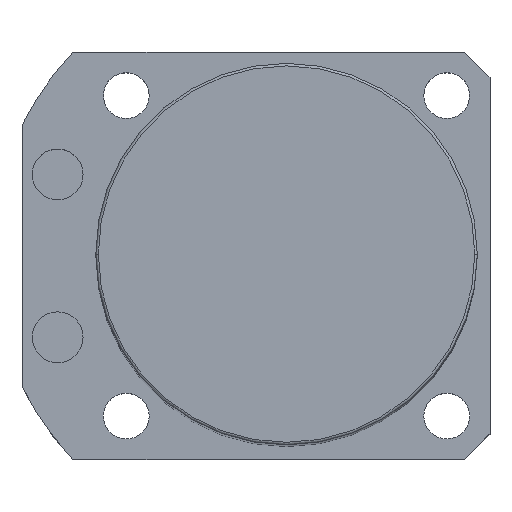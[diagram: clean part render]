
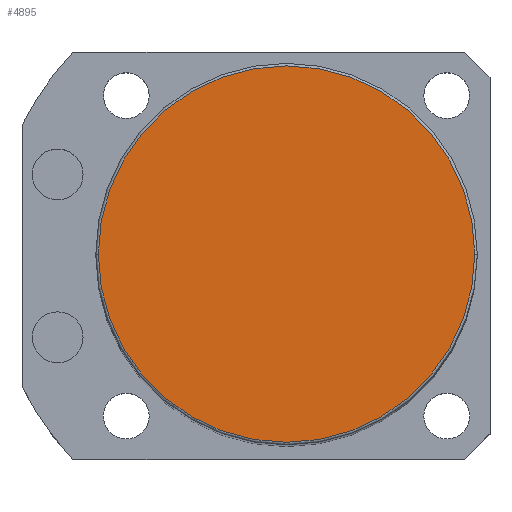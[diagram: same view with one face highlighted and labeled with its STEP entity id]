
A CAD part, top view. The second image highlights one B-rep face of the part: STEP entity #4895.
In plain terms, the highlighted planar face has unit normal (0, 0, 1).
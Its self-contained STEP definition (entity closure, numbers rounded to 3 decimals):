
#64 = CARTESIAN_POINT ( 'NONE',  ( 37., 0., 215.5 ) ) ;
#261 = VERTEX_POINT ( 'NONE', #64 ) ;
#926 = EDGE_LOOP ( 'NONE', ( #5886, #2808 ) ) ;
#1467 = CARTESIAN_POINT ( 'NONE',  ( 0., 0., 215.5 ) ) ;
#1921 = AXIS2_PLACEMENT_3D ( 'NONE', #4008, #1931, #4989 ) ;
#1931 = DIRECTION ( 'NONE',  ( 0., 0., 1. ) ) ;
#1952 = PLANE ( 'NONE',  #1921 ) ;
#2172 = EDGE_CURVE ( 'NONE', #2817, #261, #3755, .T. ) ;
#2262 = EDGE_CURVE ( 'NONE', #261, #2817, #6513, .T. ) ;
#2808 = ORIENTED_EDGE ( 'NONE', *, *, #2172, .T. ) ;
#2817 = VERTEX_POINT ( 'NONE', #5578 ) ;
#2950 = DIRECTION ( 'NONE',  ( 0., 0., 1. ) ) ;
#3020 = DIRECTION ( 'NONE',  ( 0., 0., 1. ) ) ;
#3379 = AXIS2_PLACEMENT_3D ( 'NONE', #1467, #3020, #6092 ) ;
#3488 = CARTESIAN_POINT ( 'NONE',  ( 0., 0., 215.5 ) ) ;
#3755 = CIRCLE ( 'NONE', #5948, 37. ) ;
#4008 = CARTESIAN_POINT ( 'NONE',  ( 0., 0., 215.5 ) ) ;
#4895 = ADVANCED_FACE ( 'NONE', ( #6280 ), #1952, .T. ) ;
#4989 = DIRECTION ( 'NONE',  ( 1., 0., 0. ) ) ;
#5016 = DIRECTION ( 'NONE',  ( 1., 0., 0. ) ) ;
#5578 = CARTESIAN_POINT ( 'NONE',  ( -37., 0., 215.5 ) ) ;
#5886 = ORIENTED_EDGE ( 'NONE', *, *, #2262, .T. ) ;
#5948 = AXIS2_PLACEMENT_3D ( 'NONE', #3488, #2950, #5016 ) ;
#6092 = DIRECTION ( 'NONE',  ( 1., 0., 0. ) ) ;
#6280 = FACE_OUTER_BOUND ( 'NONE', #926, .T. ) ;
#6513 = CIRCLE ( 'NONE', #3379, 37. ) ;
